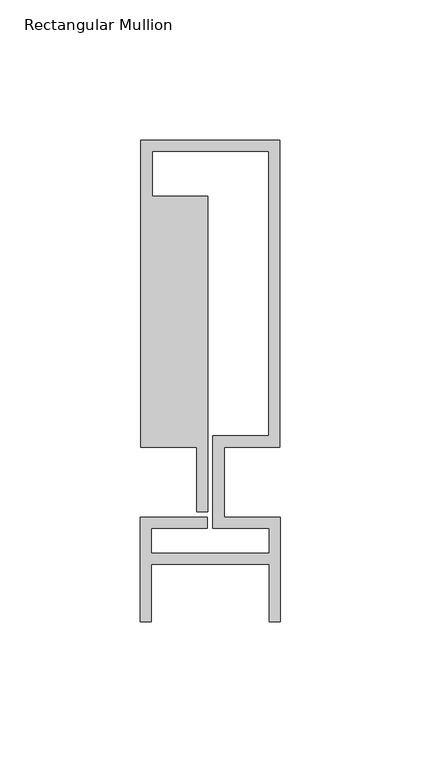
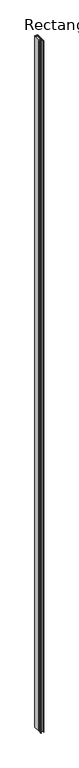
"""IFC4 building model written with IfcOpenShell, lengths in millimetres: member geometry, Rectangular Mullion : Reynaers_CW-50_Mullion-Transom_Horizontal_109.4mm_Facecap-03."""

from ifc_helpers import new_model, si_unit, frame, origin, place, context, project, spatial, polyline, outline, extrude, source, transform, mapped, element, save


def rectangular_mullion_1dc7512e(model_context):
    return source(origin(), model_context, "Body", "SweptSolid", [
        extrude(outline(polyline([(-24.8004059, 121.9), (24.8004059, 121.9), (24.8004059, 12.5), (4.9004059, 12.5), (4.9004059, -12.5), (24.994845, -12.5), (24.994845, -49.8), (20.994845, -49.8), (20.994845, -29.3268728), (-20.994845, -29.3268728), (-20.994845, -49.8), (-24.994845, -49.8), (-24.994845, -12.5), (-1.0995941, -12.5), (-1.0995941, -16.5), (-20.994845, -16.5), (-20.994845, -25.3268728), (20.994845, -25.3268728), (20.994845, -16.5), (0.9004059, -16.5), (0.9004059, 16.5), (20.8004059, 16.5), (20.8004059, 117.9), (-20.8004059, 117.9), (-20.8004059, 102.0), (-0.9004059, 102.0), (-0.9004059, -10.5), (-4.9004059, -10.5), (-4.9004059, 12.5), (-24.8004059, 12.5), (-24.8004059, 121.9)])), frame((0.0, 0.0, -12000.0), z_axis=(0.0, 0.0, 1.0), x_axis=(1.0, 0.0, 0.0)), (0.0, 0.0, 1.0), 12000.0),
    ])


if __name__ == "__main__":
    model = new_model("IFC4")
    model_context = context("Model", 3, world=origin())
    ifc_project = project(units=[si_unit("LENGTHUNIT", "METRE", prefix="MILLI")], contexts=[model_context])
    site = spatial("IfcSite", under=ifc_project)
    building = spatial("IfcBuilding", under=site)
    placement = place(None, origin())
    rectangular_mullion_shape = rectangular_mullion_1dc7512e(model_context)
    element("IfcMember", 1, ObjectType="Rectangular Mullion : Reynaers_CW-50_Mullion-Transom_Horizontal_109.4mm_Facecap-03", at=placement, inside=building, context=model_context, shape_type="MappedRepresentation", body=[
        mapped(rectangular_mullion_shape, transform((0.0, 0.0, 0.0), x_axis=(1.0, 0.0, 0.0), y_axis=(0.0, 1.0, 0.0), z_axis=(0.0, 0.0, 1.0))),
    ])
    save(model, "model.ifc")
